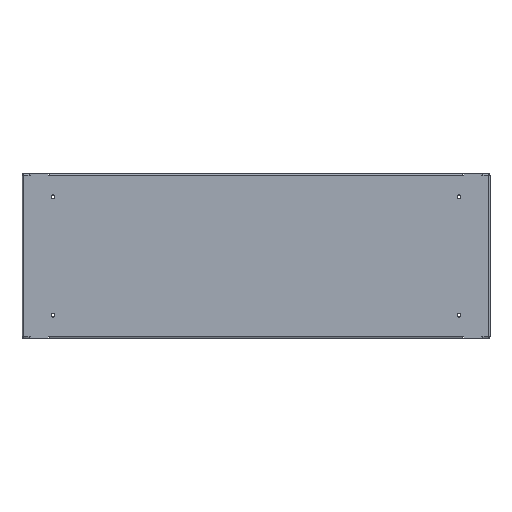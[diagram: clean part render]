
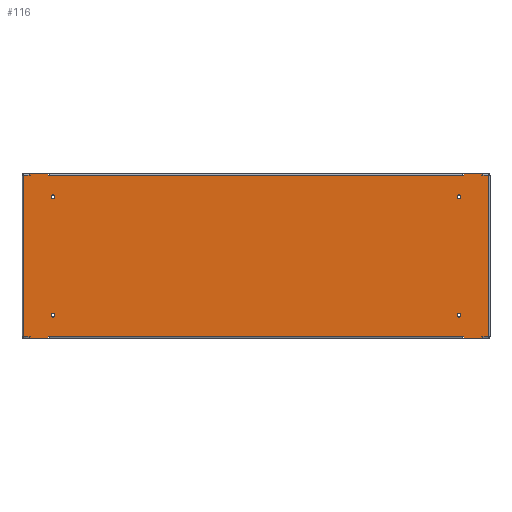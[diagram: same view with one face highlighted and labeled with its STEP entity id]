
A CAD part, top view. The second image highlights one B-rep face of the part: STEP entity #116.
In plain terms, the highlighted planar face has unit normal (0, 0, 1).
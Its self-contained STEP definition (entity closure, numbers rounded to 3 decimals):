
#116=ADVANCED_FACE('',(#582,#584,#586,#588,#590),#592,.F.);
#582=FACE_BOUND('',#583,.T.);
#583=EDGE_LOOP('',(#1966,#1967,#1968,#1969,#1970,#1971,#1972,#1973,#1974,#1975,#1976,
#1977,#1978,#1979,#1980,#1981,#1982,#1983,#1984,#1985,#1986,#1987,#1988,#1989,#1990,
#1991,#1992,#1993));
#584=FACE_BOUND('',#585,.T.);
#585=EDGE_LOOP('',(#1994));
#586=FACE_BOUND('',#587,.T.);
#587=EDGE_LOOP('',(#1995));
#588=FACE_BOUND('',#589,.T.);
#589=EDGE_LOOP('',(#1996));
#590=FACE_BOUND('',#591,.T.);
#591=EDGE_LOOP('',(#1997));
#592=PLANE('',#593);
#593=AXIS2_PLACEMENT_3D('',#594,#595,#596);
#594=CARTESIAN_POINT('',(0.,0.,0.));
#595=DIRECTION('',(0.,0.,-1.));
#596=DIRECTION('',(-1.,0.,0.));
#1966=ORIENTED_EDGE('',*,*,#2666,.T.);
#1967=ORIENTED_EDGE('',*,*,#2565,.T.);
#1968=ORIENTED_EDGE('',*,*,#2549,.T.);
#1969=ORIENTED_EDGE('',*,*,#2667,.F.);
#1970=ORIENTED_EDGE('',*,*,#2668,.F.);
#1971=ORIENTED_EDGE('',*,*,#2669,.F.);
#1972=ORIENTED_EDGE('',*,*,#2551,.T.);
#1973=ORIENTED_EDGE('',*,*,#2557,.T.);
#1974=ORIENTED_EDGE('',*,*,#2541,.T.);
#1975=ORIENTED_EDGE('',*,*,#2670,.F.);
#1976=ORIENTED_EDGE('',*,*,#2671,.F.);
#1977=ORIENTED_EDGE('',*,*,#2672,.F.);
#1978=ORIENTED_EDGE('',*,*,#2543,.T.);
#1979=ORIENTED_EDGE('',*,*,#2559,.T.);
#1980=ORIENTED_EDGE('',*,*,#2673,.T.);
#1981=ORIENTED_EDGE('',*,*,#2674,.T.);
#1982=ORIENTED_EDGE('',*,*,#2675,.F.);
#1983=ORIENTED_EDGE('',*,*,#2676,.T.);
#1984=ORIENTED_EDGE('',*,*,#2677,.T.);
#1985=ORIENTED_EDGE('',*,*,#2678,.T.);
#1986=ORIENTED_EDGE('',*,*,#2610,.F.);
#1987=ORIENTED_EDGE('',*,*,#2618,.T.);
#1988=ORIENTED_EDGE('',*,*,#2679,.F.);
#1989=ORIENTED_EDGE('',*,*,#2680,.T.);
#1990=ORIENTED_EDGE('',*,*,#2681,.T.);
#1991=ORIENTED_EDGE('',*,*,#2682,.T.);
#1992=ORIENTED_EDGE('',*,*,#2614,.F.);
#1993=ORIENTED_EDGE('',*,*,#2622,.T.);
#1994=ORIENTED_EDGE('',*,*,#2521,.T.);
#1995=ORIENTED_EDGE('',*,*,#2523,.T.);
#1996=ORIENTED_EDGE('',*,*,#2535,.F.);
#1997=ORIENTED_EDGE('',*,*,#2537,.F.);
#2521=EDGE_CURVE('',#2895,#2895,#2896,.T.);
#2523=EDGE_CURVE('',#2899,#2899,#2900,.T.);
#2535=EDGE_CURVE('',#2923,#2923,#2924,.T.);
#2537=EDGE_CURVE('',#2927,#2927,#2928,.T.);
#2541=EDGE_CURVE('',#2936,#2934,#2937,.T.);
#2543=EDGE_CURVE('',#2939,#2940,#2941,.T.);
#2549=EDGE_CURVE('',#2952,#2950,#2953,.T.);
#2551=EDGE_CURVE('',#2955,#2956,#2957,.T.);
#2557=EDGE_CURVE('',#2956,#2936,#2967,.T.);
#2559=EDGE_CURVE('',#2940,#2969,#2970,.T.);
#2565=EDGE_CURVE('',#2980,#2952,#2981,.T.);
#2610=EDGE_CURVE('',#3052,#3048,#3054,.T.);
#2614=EDGE_CURVE('',#3060,#3056,#3062,.T.);
#2618=EDGE_CURVE('',#3052,#3067,#3069,.T.);
#2622=EDGE_CURVE('',#3060,#3074,#3076,.T.);
#2666=EDGE_CURVE('',#3074,#2980,#3148,.T.);
#2667=EDGE_CURVE('',#3149,#2950,#3150,.T.);
#2668=EDGE_CURVE('',#3151,#3149,#3152,.T.);
#2669=EDGE_CURVE('',#2955,#3151,#3153,.T.);
#2670=EDGE_CURVE('',#3154,#2934,#3155,.T.);
#2671=EDGE_CURVE('',#3156,#3154,#3157,.T.);
#2672=EDGE_CURVE('',#2939,#3156,#3158,.T.);
#2673=EDGE_CURVE('',#2969,#3159,#3160,.T.);
#2674=EDGE_CURVE('',#3159,#3161,#3162,.T.);
#2675=EDGE_CURVE('',#3163,#3161,#3164,.T.);
#2676=EDGE_CURVE('',#3163,#3165,#3166,.T.);
#2677=EDGE_CURVE('',#3165,#3167,#3168,.T.);
#2678=EDGE_CURVE('',#3167,#3048,#3169,.T.);
#2679=EDGE_CURVE('',#3170,#3067,#3171,.T.);
#2680=EDGE_CURVE('',#3170,#3172,#3173,.T.);
#2681=EDGE_CURVE('',#3172,#3174,#3175,.T.);
#2682=EDGE_CURVE('',#3174,#3056,#3176,.T.);
#2895=VERTEX_POINT('',#3507);
#2896=CIRCLE('',#3508,3.65);
#2899=VERTEX_POINT('',#3517);
#2900=CIRCLE('',#3518,3.65);
#2923=VERTEX_POINT('',#3577);
#2924=CIRCLE('',#3578,3.65);
#2927=VERTEX_POINT('',#3587);
#2928=CIRCLE('',#3588,3.65);
#2934=VERTEX_POINT('',#3602);
#2936=VERTEX_POINT('',#3606);
#2937=LINE('',#3607,#3608);
#2939=VERTEX_POINT('',#3613);
#2940=VERTEX_POINT('',#3614);
#2941=LINE('',#3615,#3616);
#2950=VERTEX_POINT('',#3634);
#2952=VERTEX_POINT('',#3638);
#2953=LINE('',#3639,#3640);
#2955=VERTEX_POINT('',#3645);
#2956=VERTEX_POINT('',#3646);
#2957=LINE('',#3647,#3648);
#2967=LINE('',#3670,#3671);
#2969=VERTEX_POINT('',#3677);
#2970=LINE('',#3678,#3679);
#2980=VERTEX_POINT('',#3716);
#2981=LINE('',#3717,#3718);
#3048=VERTEX_POINT('',#3912);
#3052=VERTEX_POINT('',#3920);
#3054=LINE('',#3924,#3925);
#3056=VERTEX_POINT('',#3928);
#3060=VERTEX_POINT('',#3936);
#3062=LINE('',#3940,#3941);
#3067=VERTEX_POINT('',#3952);
#3069=LINE('',#3957,#3958);
#3074=VERTEX_POINT('',#3969);
#3076=LINE('',#3987,#3988);
#3148=LINE('',#4163,#4164);
#3149=VERTEX_POINT('',#4166);
#3150=LINE('',#4167,#4168);
#3151=VERTEX_POINT('',#4170);
#3152=LINE('',#4171,#4172);
#3153=LINE('',#4174,#4175);
#3154=VERTEX_POINT('',#4177);
#3155=LINE('',#4178,#4179);
#3156=VERTEX_POINT('',#4181);
#3157=LINE('',#4182,#4183);
#3158=LINE('',#4185,#4186);
#3159=VERTEX_POINT('',#4188);
#3160=LINE('',#4189,#4190);
#3161=VERTEX_POINT('',#4192);
#3162=LINE('',#4193,#4194);
#3163=VERTEX_POINT('',#4196);
#3164=LINE('',#4197,#4198);
#3165=VERTEX_POINT('',#4200);
#3166=LINE('',#4201,#4202);
#3167=VERTEX_POINT('',#4204);
#3168=LINE('',#4205,#4206);
#3169=LINE('',#4208,#4209);
#3170=VERTEX_POINT('',#4211);
#3171=LINE('',#4212,#4213);
#3172=VERTEX_POINT('',#4215);
#3173=LINE('',#4216,#4217);
#3174=VERTEX_POINT('',#4219);
#3175=LINE('',#4220,#4221);
#3176=LINE('',#4223,#4224);
#3507=CARTESIAN_POINT('',(-424.35,-125.,0.));
#3508=AXIS2_PLACEMENT_3D('',#3509,#3510,#3511);
#3509=CARTESIAN_POINT('',(-428.,-125.,0.));
#3510=DIRECTION('',(0.,0.,-1.));
#3511=DIRECTION('',(1.,0.,0.));
#3517=CARTESIAN_POINT('',(431.65,-125.,0.));
#3518=AXIS2_PLACEMENT_3D('',#3519,#3520,#3521);
#3519=CARTESIAN_POINT('',(428.,-125.,0.));
#3520=DIRECTION('',(0.,0.,-1.));
#3521=DIRECTION('',(1.,0.,0.));
#3577=CARTESIAN_POINT('',(-424.35,125.,0.));
#3578=AXIS2_PLACEMENT_3D('',#3579,#3580,#3581);
#3579=CARTESIAN_POINT('',(-428.,125.,0.));
#3580=DIRECTION('',(0.,0.,1.));
#3581=DIRECTION('',(-1.,0.,0.));
#3587=CARTESIAN_POINT('',(431.65,125.,0.));
#3588=AXIS2_PLACEMENT_3D('',#3589,#3590,#3591);
#3589=CARTESIAN_POINT('',(428.,125.,0.));
#3590=DIRECTION('',(0.,0.,1.));
#3591=DIRECTION('',(-1.,0.,0.));
#3602=CARTESIAN_POINT('',(438.2,-170.3,0.));
#3606=CARTESIAN_POINT('',(436.2,-170.3,0.));
#3607=CARTESIAN_POINT('',(436.2,-170.3,0.));
#3608=VECTOR('',#3609,1.);
#3609=DIRECTION('',(1.,0.,0.));
#3613=CARTESIAN_POINT('',(476.2,-170.3,0.));
#3614=CARTESIAN_POINT('',(478.2,-170.3,0.));
#3615=CARTESIAN_POINT('',(476.2,-170.3,0.));
#3616=VECTOR('',#3617,1.);
#3617=DIRECTION('',(1.,0.,0.));
#3634=CARTESIAN_POINT('',(-476.2,-170.3,0.));
#3638=CARTESIAN_POINT('',(-478.2,-170.3,0.));
#3639=CARTESIAN_POINT('',(-478.2,-170.3,0.));
#3640=VECTOR('',#3641,1.);
#3641=DIRECTION('',(1.,0.,0.));
#3645=CARTESIAN_POINT('',(-438.2,-170.3,0.));
#3646=CARTESIAN_POINT('',(-436.2,-170.3,0.));
#3647=CARTESIAN_POINT('',(-438.2,-170.3,0.));
#3648=VECTOR('',#3649,1.);
#3649=DIRECTION('',(1.,0.,0.));
#3670=CARTESIAN_POINT('',(-436.2,-170.3,0.));
#3671=VECTOR('',#3672,1.);
#3672=DIRECTION('',(1.,0.,0.));
#3677=CARTESIAN_POINT('',(490.,-170.3,0.));
#3678=CARTESIAN_POINT('',(478.2,-170.3,0.));
#3679=VECTOR('',#3680,1.);
#3680=DIRECTION('',(1.,0.,0.));
#3716=CARTESIAN_POINT('',(-490.,-170.3,0.));
#3717=CARTESIAN_POINT('',(-490.,-170.3,0.));
#3718=VECTOR('',#3719,1.);
#3719=DIRECTION('',(1.,0.,0.));
#3912=CARTESIAN_POINT('',(438.2,170.3,0.));
#3920=CARTESIAN_POINT('',(436.2,170.3,0.));
#3924=CARTESIAN_POINT('',(436.2,170.3,0.));
#3925=VECTOR('',#3926,1.);
#3926=DIRECTION('',(1.,0.,0.));
#3928=CARTESIAN_POINT('',(-476.2,170.3,0.));
#3936=CARTESIAN_POINT('',(-478.2,170.3,0.));
#3940=CARTESIAN_POINT('',(-478.2,170.3,0.));
#3941=VECTOR('',#3942,1.);
#3942=DIRECTION('',(1.,0.,0.));
#3952=CARTESIAN_POINT('',(-436.2,170.3,0.));
#3957=CARTESIAN_POINT('',(436.2,170.3,0.));
#3958=VECTOR('',#3959,1.);
#3959=DIRECTION('',(-1.,0.,0.));
#3969=CARTESIAN_POINT('',(-490.,170.3,0.));
#3987=CARTESIAN_POINT('',(-478.2,170.3,0.));
#3988=VECTOR('',#3989,1.);
#3989=DIRECTION('',(-1.,0.,0.));
#4163=CARTESIAN_POINT('',(-490.,170.3,0.));
#4164=VECTOR('',#4165,1.);
#4165=DIRECTION('',(0.,-1.,0.));
#4166=CARTESIAN_POINT('',(-476.2,-173.5,0.));
#4167=CARTESIAN_POINT('',(-476.2,-173.5,0.));
#4168=VECTOR('',#4169,1.);
#4169=DIRECTION('',(0.,1.,0.));
#4170=CARTESIAN_POINT('',(-438.2,-173.5,0.));
#4171=CARTESIAN_POINT('',(-438.2,-173.5,0.));
#4172=VECTOR('',#4173,1.);
#4173=DIRECTION('',(-1.,0.,0.));
#4174=CARTESIAN_POINT('',(-438.2,-170.3,0.));
#4175=VECTOR('',#4176,1.);
#4176=DIRECTION('',(0.,-1.,0.));
#4177=CARTESIAN_POINT('',(438.2,-173.5,0.));
#4178=CARTESIAN_POINT('',(438.2,-173.5,0.));
#4179=VECTOR('',#4180,1.);
#4180=DIRECTION('',(0.,1.,0.));
#4181=CARTESIAN_POINT('',(476.2,-173.5,0.));
#4182=CARTESIAN_POINT('',(476.2,-173.5,0.));
#4183=VECTOR('',#4184,1.);
#4184=DIRECTION('',(-1.,0.,0.));
#4185=CARTESIAN_POINT('',(476.2,-170.3,0.));
#4186=VECTOR('',#4187,1.);
#4187=DIRECTION('',(0.,-1.,0.));
#4188=CARTESIAN_POINT('',(490.,170.3,0.));
#4189=CARTESIAN_POINT('',(490.,-170.3,0.));
#4190=VECTOR('',#4191,1.);
#4191=DIRECTION('',(0.,1.,0.));
#4192=CARTESIAN_POINT('',(478.2,170.3,0.));
#4193=CARTESIAN_POINT('',(490.,170.3,0.));
#4194=VECTOR('',#4195,1.);
#4195=DIRECTION('',(-1.,0.,0.));
#4196=CARTESIAN_POINT('',(476.2,170.3,0.));
#4197=CARTESIAN_POINT('',(476.2,170.3,0.));
#4198=VECTOR('',#4199,1.);
#4199=DIRECTION('',(1.,0.,0.));
#4200=CARTESIAN_POINT('',(476.2,173.5,0.));
#4201=CARTESIAN_POINT('',(476.2,170.3,0.));
#4202=VECTOR('',#4203,1.);
#4203=DIRECTION('',(0.,1.,0.));
#4204=CARTESIAN_POINT('',(438.2,173.5,0.));
#4205=CARTESIAN_POINT('',(476.2,173.5,0.));
#4206=VECTOR('',#4207,1.);
#4207=DIRECTION('',(-1.,0.,0.));
#4208=CARTESIAN_POINT('',(438.2,173.5,0.));
#4209=VECTOR('',#4210,1.);
#4210=DIRECTION('',(0.,-1.,0.));
#4211=CARTESIAN_POINT('',(-438.2,170.3,0.));
#4212=CARTESIAN_POINT('',(-438.2,170.3,0.));
#4213=VECTOR('',#4214,1.);
#4214=DIRECTION('',(1.,0.,0.));
#4215=CARTESIAN_POINT('',(-438.2,173.5,0.));
#4216=CARTESIAN_POINT('',(-438.2,170.3,0.));
#4217=VECTOR('',#4218,1.);
#4218=DIRECTION('',(0.,1.,0.));
#4219=CARTESIAN_POINT('',(-476.2,173.5,0.));
#4220=CARTESIAN_POINT('',(-438.2,173.5,0.));
#4221=VECTOR('',#4222,1.);
#4222=DIRECTION('',(-1.,0.,0.));
#4223=CARTESIAN_POINT('',(-476.2,173.5,0.));
#4224=VECTOR('',#4225,1.);
#4225=DIRECTION('',(0.,-1.,0.));
